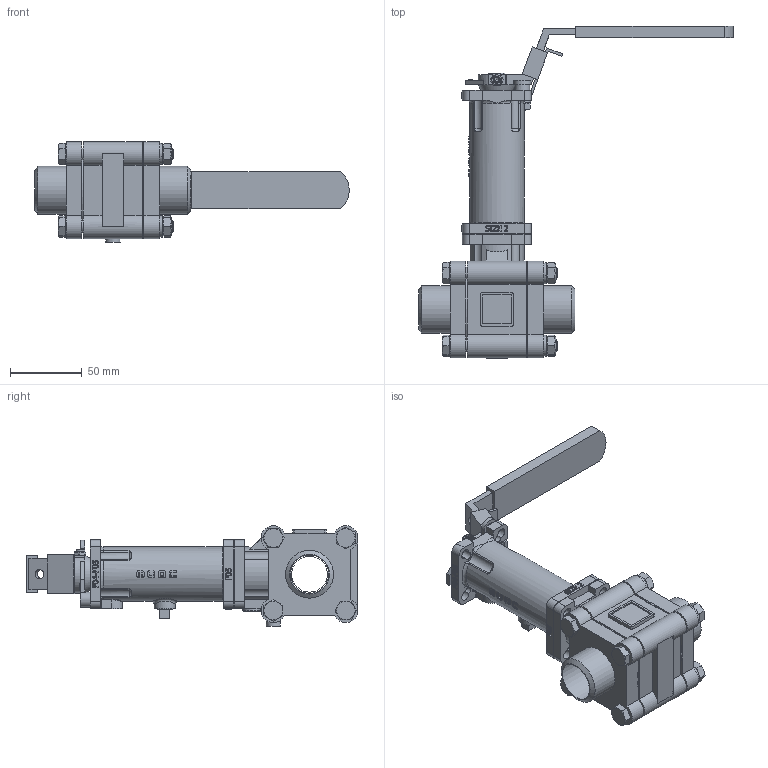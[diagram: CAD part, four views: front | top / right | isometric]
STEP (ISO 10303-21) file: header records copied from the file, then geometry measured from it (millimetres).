
FILE_DESCRIPTION(/* description */ ('Eriks item no: 14229943'),/* implementation_level */ '2;1');
FILE_NAME(/* name */ 'L:\DATA\ENG\Inventor\Econ 3D modellen\kogelkranen\7642 +7412\7642-DN25-FB + 7412-size2.stp',/* time_stamp */ '2024-01-22T16:05:10+01:00',/* author */ ('roger.thijssen'),/* organization */ (''),/* preprocessor_version */ 'ST-DEVELOPER v18',/* originating_system */ 'Autodesk Inventor 2020',/* authorisation */ '');
FILE_SCHEMA (('CONFIG_CONTROL_DESIGN'));
Length unit declared in the file: millimetre
Products named in the file (1): Ball valve + stem ext., 7642-DN25-FB + 7412-size2
Bounding box: 219.5 x 231.66 x 70.1 mm (x, y, z)
Volume: 425929.1 mm3; surface area: 106101.2 mm2
Topology: 1 solids, 1 shells, 1182 faces, 3176 edges, 2073 vertices
Faces by surface type: plane 690, cylinder 202, bspline 192, cone 75, torus 23
Full cylindrical faces by diameter (mm): 5 x1, 6 x1, 6.5 x2, 7 x4, 8 x8, 8.6 x1, 9 x11, 10 x1, 10.5 x1, 11.6 x4, 12 x1, 14.288 x3, 15 x2, 20 x1, 25 x1, 28 x2, 30 x1, 33.4 x2, 35 x1, 38 x1, 57 x2
Entity records: 41692 total; most frequent: CARTESIAN_POINT 11956, ORIENTED_EDGE 6350, DIRECTION 5294, EDGE_CURVE 3175, VERTEX_POINT 2073, LINE 1842, VECTOR 1842, AXIS2_PLACEMENT_3D 1726
